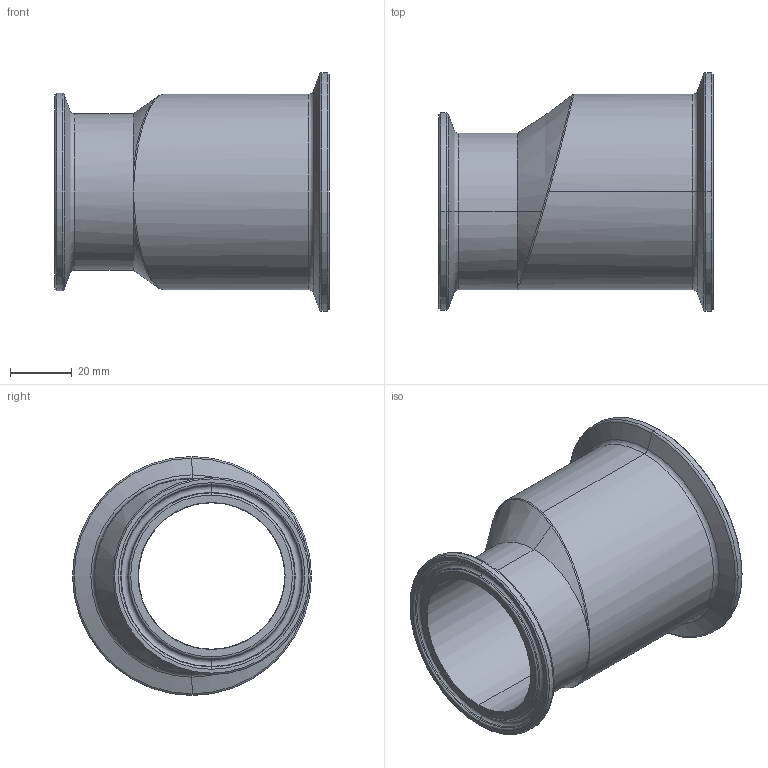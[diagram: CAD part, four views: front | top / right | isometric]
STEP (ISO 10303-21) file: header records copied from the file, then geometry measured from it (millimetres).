
FILE_DESCRIPTION (( 'STEP AP214' ), '1' );
FILE_NAME ('TEG32SCC6L2.5x2.0-...STEP', '2016-06-01T13:02:58', ( 'eran' ), ( '' ), 'SwSTEP 2.0', 'SolidWorks 2016', '' );
FILE_SCHEMA (( 'AUTOMOTIVE_DESIGN' ));
Length unit declared in the file: millimetre
Products named in the file (1): TEG32SCC6L2.5x2.0-..
Bounding box: 88.9 x 77.5 x 77.5 mm (x, y, z)
Volume: 77956.9 mm3; surface area: 36925.8 mm2
Topology: 1 solids, 1 shells, 70 faces, 150 edges, 80 vertices
Faces by surface type: cone 26, torus 23, cylinder 12, bspline 5, plane 4
Entity records: 2653 total; most frequent: CARTESIAN_POINT 1119, DIRECTION 354, ORIENTED_EDGE 292, AXIS2_PLACEMENT_3D 159, EDGE_CURVE 146, CIRCLE 93, VERTEX_POINT 80, EDGE_LOOP 74
